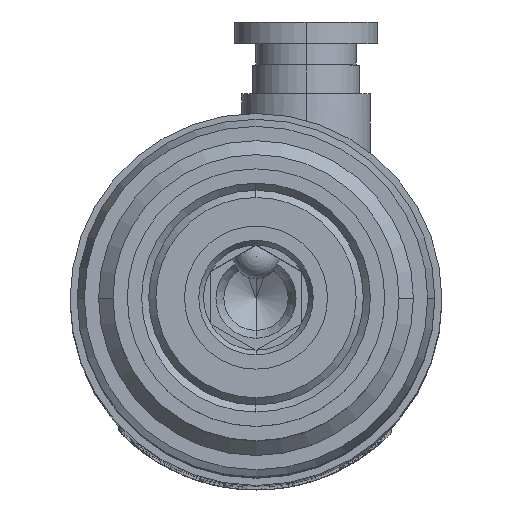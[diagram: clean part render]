
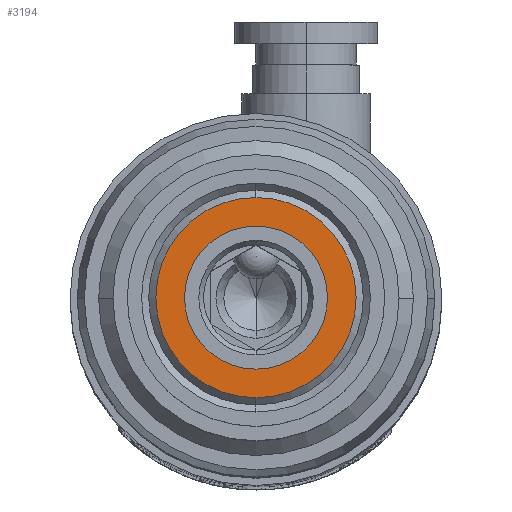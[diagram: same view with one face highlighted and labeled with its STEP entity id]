
A CAD part, top view. The second image highlights one B-rep face of the part: STEP entity #3194.
In plain terms, the highlighted planar face has unit normal (0, 0, 1).
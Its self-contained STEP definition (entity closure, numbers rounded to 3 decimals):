
#3082 = EDGE_CURVE ( 'NONE', #3083, #3085, #13496, .T. ) ;
#3083 = VERTEX_POINT ( 'NONE', #13487 ) ;
#3085 = VERTEX_POINT ( 'NONE', #13486 ) ;
#3194 = ADVANCED_FACE ( 'NONE', ( #13572, #13571 ), #13577, .F. ) ;
#3196 = ORIENTED_EDGE ( 'NONE', *, *, #3197, .F. ) ;
#3197 = EDGE_CURVE ( 'NONE', #3222, #3219, #13630, .T. ) ;
#3198 = ORIENTED_EDGE ( 'NONE', *, *, #3221, .F. ) ;
#3200 = EDGE_LOOP ( 'NONE', ( #3201, #3203 ) ) ;
#3201 = ORIENTED_EDGE ( 'NONE', *, *, #3202, .T. ) ;
#3202 = EDGE_CURVE ( 'NONE', #3085, #3083, #13625, .T. ) ;
#3203 = ORIENTED_EDGE ( 'NONE', *, *, #3082, .T. ) ;
#3219 = VERTEX_POINT ( 'NONE', #13655 ) ;
#3221 = EDGE_CURVE ( 'NONE', #3219, #3222, #13654, .T. ) ;
#3222 = VERTEX_POINT ( 'NONE', #13649 ) ;
#3226 = EDGE_LOOP ( 'NONE', ( #3196, #3198 ) ) ;
#13486 = CARTESIAN_POINT ( 'NONE',  ( -7., 0., 0. ) ) ;
#13487 = CARTESIAN_POINT ( 'NONE',  ( 7., 0., 0. ) ) ;
#13488 = DIRECTION ( 'NONE',  ( 1., 0., 0. ) ) ;
#13489 = DIRECTION ( 'NONE',  ( 0., 0., 1. ) ) ;
#13490 = CARTESIAN_POINT ( 'NONE',  ( 0., 0., 0. ) ) ;
#13491 = AXIS2_PLACEMENT_3D ( 'NONE', #13490, #13489, #13488 ) ;
#13496 = CIRCLE ( 'NONE', #13491, 7. ) ;
#13567 = DIRECTION ( 'NONE',  ( -1., 0., 0. ) ) ;
#13568 = DIRECTION ( 'NONE',  ( 0., 0., -1. ) ) ;
#13569 = CARTESIAN_POINT ( 'NONE',  ( 0., 5., 0. ) ) ;
#13570 = AXIS2_PLACEMENT_3D ( 'NONE', #13569, #13568, #13567 ) ;
#13571 = FACE_OUTER_BOUND ( 'NONE', #3200, .T. ) ;
#13572 = FACE_BOUND ( 'NONE', #3226, .T. ) ;
#13577 = PLANE ( 'NONE',  #13570 ) ;
#13621 = DIRECTION ( 'NONE',  ( 1., 0., 0. ) ) ;
#13622 = DIRECTION ( 'NONE',  ( 0., 0., 1. ) ) ;
#13623 = CARTESIAN_POINT ( 'NONE',  ( 0., 0., 0. ) ) ;
#13624 = AXIS2_PLACEMENT_3D ( 'NONE', #13623, #13622, #13621 ) ;
#13625 = CIRCLE ( 'NONE', #13624, 7. ) ;
#13626 = DIRECTION ( 'NONE',  ( 1., 0., 0. ) ) ;
#13627 = DIRECTION ( 'NONE',  ( 0., 0., 1. ) ) ;
#13628 = CARTESIAN_POINT ( 'NONE',  ( 0., 0., 0. ) ) ;
#13629 = AXIS2_PLACEMENT_3D ( 'NONE', #13628, #13627, #13626 ) ;
#13630 = CIRCLE ( 'NONE', #13629, 5. ) ;
#13649 = CARTESIAN_POINT ( 'NONE',  ( 5., 0., 0. ) ) ;
#13650 = DIRECTION ( 'NONE',  ( 1., 0., 0. ) ) ;
#13651 = DIRECTION ( 'NONE',  ( 0., 0., 1. ) ) ;
#13652 = CARTESIAN_POINT ( 'NONE',  ( 0., 0., 0. ) ) ;
#13653 = AXIS2_PLACEMENT_3D ( 'NONE', #13652, #13651, #13650 ) ;
#13654 = CIRCLE ( 'NONE', #13653, 5. ) ;
#13655 = CARTESIAN_POINT ( 'NONE',  ( -5., 0., 0. ) ) ;
